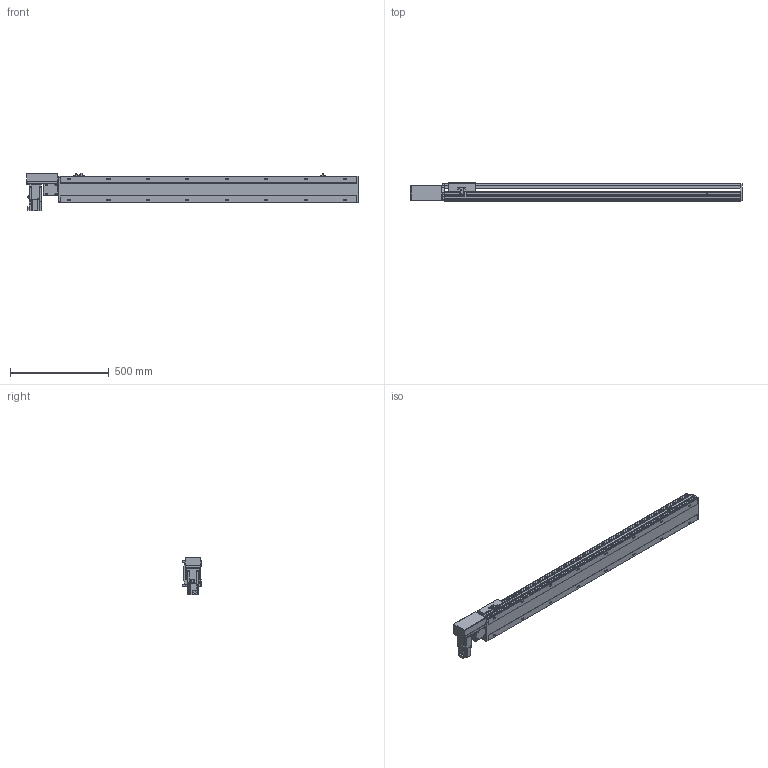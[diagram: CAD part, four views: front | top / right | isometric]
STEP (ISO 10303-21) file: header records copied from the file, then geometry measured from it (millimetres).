
FILE_DESCRIPTION( ( 'STEP AP214' ), '1' );
FILE_NAME( 'x:/temp/worker_6/temp/exporttempdir_5396_61_e8vW4/format_0/PBS140S-P40-S1250-R-T40-C1-N(0).stp', '2022-06-09T00:17:29', ( 'License CC BY-ND 4.0' ), ( 'CADENAS' ), ' ', 'PARTsolutions', ' ' );
FILE_SCHEMA( ( 'AUTOMOTIVE_DESIGN { 1 0 10303 214 1 1 1 1 }' ) );
Length unit declared in the file: millimetre
Products named in the file (7): PBS140S-P40-S1250-R-T40-C1-N(0); _PBS140S-S1250()_body; _PBS140ST-R_motors; _T40-p1; _PBS140S_sliser; _PBS140S_plant; _PBS140S_sensor
Assembly tree (8 placements, depth 2):
  PBS140S-P40-S1250-R-T40-C1-N(0)
    _PBS140S-S1250()_body
    _PBS140ST-R_motors
    _T40-p1
    _PBS140S_sliser
    _PBS140S_plant
    _PBS140S_sensor  x3
Bounding box: 1683 x 93 x 189.7 mm (x, y, z)
Volume: 8179344.4 mm3; surface area: 1404792.8 mm2
Topology: 8 solids, 8 shells, 1099 faces, 2911 edges, 1905 vertices
Faces by surface type: plane 702, cylinder 345, cone 42, sphere 8, torus 2
Full cylindrical faces by diameter (mm): 3.242 x4, 4 x2, 4.134 x4, 4.4 x8, 4.5 x2, 4.8 x4, 4.917 x24, 5.5 x7, 6 x2, 7 x18, 7.5 x8, 8 x12, 8.5 x4, 10.5 x16, 14 x1, 30 x2, 50 x2
Entity records: 40336 total; most frequent: CARTESIAN_POINT 6406, DIRECTION 5348, ORIENTED_EDGE 5062, EDGE_CURVE 2531, AXIS2_PLACEMENT_3D 1859, VERTEX_POINT 1753, LINE 1630, VECTOR 1630
